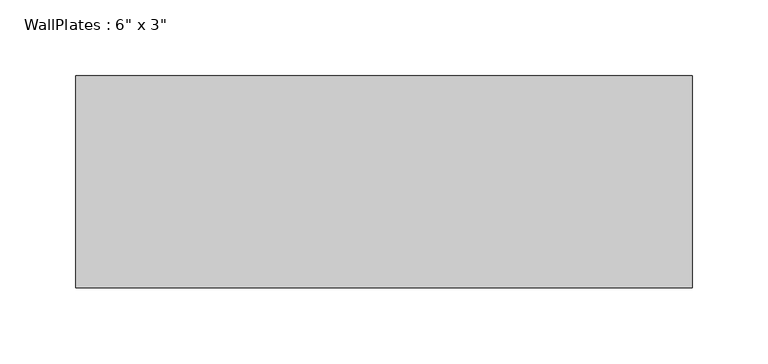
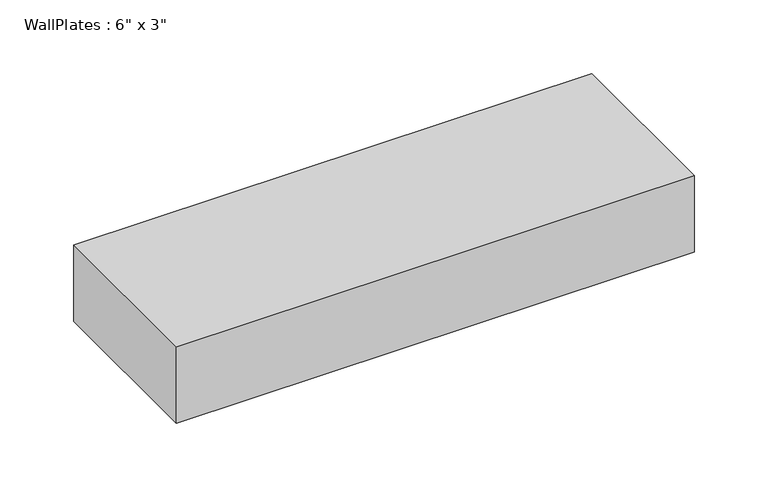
"""IFC4 building model written with IfcOpenShell, lengths in millimetres: beam geometry."""

from ifc_helpers import new_model, si_unit, frame, origin, place, context, project, spatial, polyline, outline, extrude, source, transform, mapped, element, save


def beam_e62cedd2(model_context):
    return source(origin(), model_context, "Body", "SweptSolid", [
        extrude(outline(polyline([(-203.205, -69.85), (-203.205, 69.85), (203.205, 69.85), (203.205, -69.85), (-203.205, -69.85)])), frame((0.0, 0.0, -31.75), z_axis=(0.0, 0.0, 1.0), x_axis=(1.0, 0.0, 0.0)), (0.0, 0.0, 1.0), 63.5),
    ])


if __name__ == "__main__":
    model = new_model("IFC4")
    model_context = context("Model", 3, world=origin())
    ifc_project = project(units=[si_unit("LENGTHUNIT", "METRE", prefix="MILLI")], contexts=[model_context])
    site = spatial("IfcSite", under=ifc_project)
    building = spatial("IfcBuilding", under=site)
    placement = place(None, origin())
    beam_shape = beam_e62cedd2(model_context)
    element("IfcBeam", 1, ObjectType="WallPlates : 6\" x 3\"", at=placement, inside=building, context=model_context, shape_type="MappedRepresentation", body=[
        mapped(beam_shape, transform((0.0, 0.0, 0.0), x_axis=(1.0, 0.0, 0.0), y_axis=(0.0, 1.0, 0.0), z_axis=(0.0, 0.0, 1.0))),
    ])
    save(model, "model.ifc")
